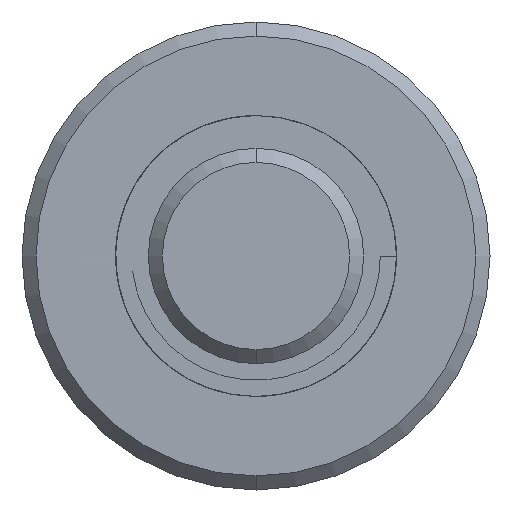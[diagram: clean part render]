
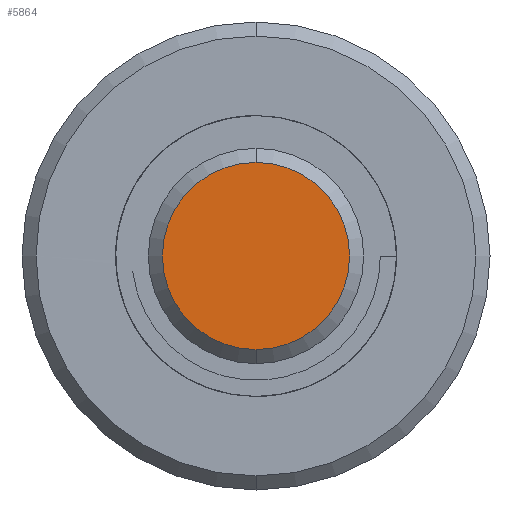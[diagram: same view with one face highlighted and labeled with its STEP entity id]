
A CAD part, front view. The second image highlights one B-rep face of the part: STEP entity #5864.
In plain terms, the highlighted planar face has unit normal (0, -1, 0).
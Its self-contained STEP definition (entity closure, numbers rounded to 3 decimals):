
#509 = DIRECTION ( 'NONE',  ( 0., 0., 1. ) ) ;
#643 = VERTEX_POINT ( 'NONE', #4558 ) ;
#1101 = AXIS2_PLACEMENT_3D ( 'NONE', #1252, #3175, #509 ) ;
#1252 = CARTESIAN_POINT ( 'NONE',  ( 0., 0., 0. ) ) ;
#2397 = PLANE ( 'NONE',  #7778 ) ;
#3175 = DIRECTION ( 'NONE',  ( 0., -1., 0. ) ) ;
#3319 = DIRECTION ( 'NONE',  ( 0., 1., 0. ) ) ;
#3623 = CIRCLE ( 'NONE', #6509, 2. ) ;
#4558 = CARTESIAN_POINT ( 'NONE',  ( 0., 0., -2. ) ) ;
#4708 = CARTESIAN_POINT ( 'NONE',  ( 0., 0., 0. ) ) ;
#5397 = DIRECTION ( 'NONE',  ( 0., -1., 0. ) ) ;
#5864 = ADVANCED_FACE ( 'NONE', ( #10169 ), #2397, .F. ) ;
#6069 = EDGE_CURVE ( 'NONE', #643, #9997, #3623, .T. ) ;
#6442 = EDGE_LOOP ( 'NONE', ( #6865, #10220 ) ) ;
#6509 = AXIS2_PLACEMENT_3D ( 'NONE', #4708, #5397, #9015 ) ;
#6865 = ORIENTED_EDGE ( 'NONE', *, *, #10306, .T. ) ;
#7619 = CARTESIAN_POINT ( 'NONE',  ( 0., 0., 0. ) ) ;
#7776 = CIRCLE ( 'NONE', #1101, 2. ) ;
#7778 = AXIS2_PLACEMENT_3D ( 'NONE', #7619, #3319, #9084 ) ;
#8717 = CARTESIAN_POINT ( 'NONE',  ( 0., 0., 2. ) ) ;
#9015 = DIRECTION ( 'NONE',  ( 0., 0., 1. ) ) ;
#9084 = DIRECTION ( 'NONE',  ( 0., 0., 1. ) ) ;
#9997 = VERTEX_POINT ( 'NONE', #8717 ) ;
#10169 = FACE_OUTER_BOUND ( 'NONE', #6442, .T. ) ;
#10220 = ORIENTED_EDGE ( 'NONE', *, *, #6069, .T. ) ;
#10306 = EDGE_CURVE ( 'NONE', #9997, #643, #7776, .T. ) ;
